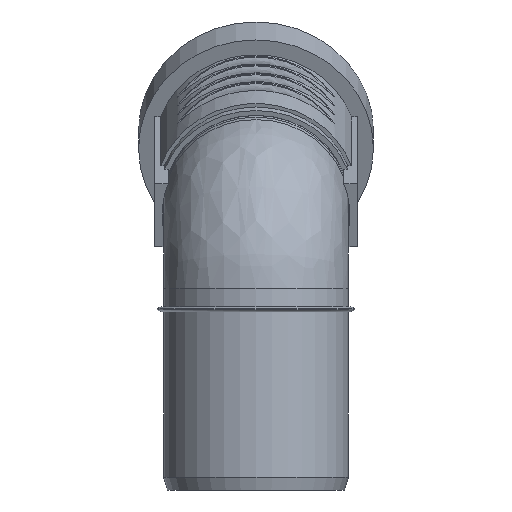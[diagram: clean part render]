
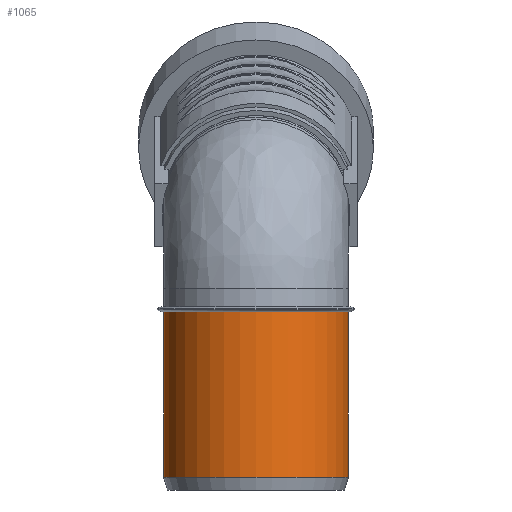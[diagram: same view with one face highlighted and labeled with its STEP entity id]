
A CAD part, left-side view. The second image highlights one B-rep face of the part: STEP entity #1065.
In plain terms, the highlighted cylindrical face has radius 25.075 mm (diameter 50.15 mm), a full revolution.
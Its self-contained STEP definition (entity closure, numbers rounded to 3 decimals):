
#190=CYLINDRICAL_SURFACE($,#1140,25.075);
#209=FACE_BOUND($,#314,.T.);
#252=FACE_OUTER_BOUND($,#313,.T.);
#313=EDGE_LOOP($,(#716));
#314=EDGE_LOOP($,(#717));
#414=CIRCLE($,#1138,25.075);
#416=CIRCLE($,#1141,25.075);
#469=VERTEX_POINT($,#1555);
#471=VERTEX_POINT($,#1560);
#575=EDGE_CURVE($,#469,#469,#414,.T.);
#577=EDGE_CURVE($,#471,#471,#416,.T.);
#716=ORIENTED_EDGE($,*,*,#577,.T.);
#717=ORIENTED_EDGE($,*,*,#575,.F.);
#1065=ADVANCED_FACE($,(#252,#209),#190,.T.);
#1138=AXIS2_PLACEMENT_3D($,#1556,#1267,#1268);
#1140=AXIS2_PLACEMENT_3D($,#1559,#1271,#1272);
#1141=AXIS2_PLACEMENT_3D($,#1561,#1273,#1274);
#1267=DIRECTION('center_axis',(0.,0.,-1.));
#1268=DIRECTION('ref_axis',(-1.,0.,0.));
#1271=DIRECTION('center_axis',(0.,0.,1.));
#1272=DIRECTION('ref_axis',(-1.,0.,0.));
#1273=DIRECTION('center_axis',(0.,0.,-1.));
#1274=DIRECTION('ref_axis',(-1.,0.,0.));
#1555=CARTESIAN_POINT('',(25.075,0.,3.5));
#1556=CARTESIAN_POINT('Origin',(0.,0.,3.5));
#1559=CARTESIAN_POINT('Origin',(0.,0.,0.));
#1560=CARTESIAN_POINT('',(-25.075,0.,48.3));
#1561=CARTESIAN_POINT('Origin',(0.,0.,48.3));
